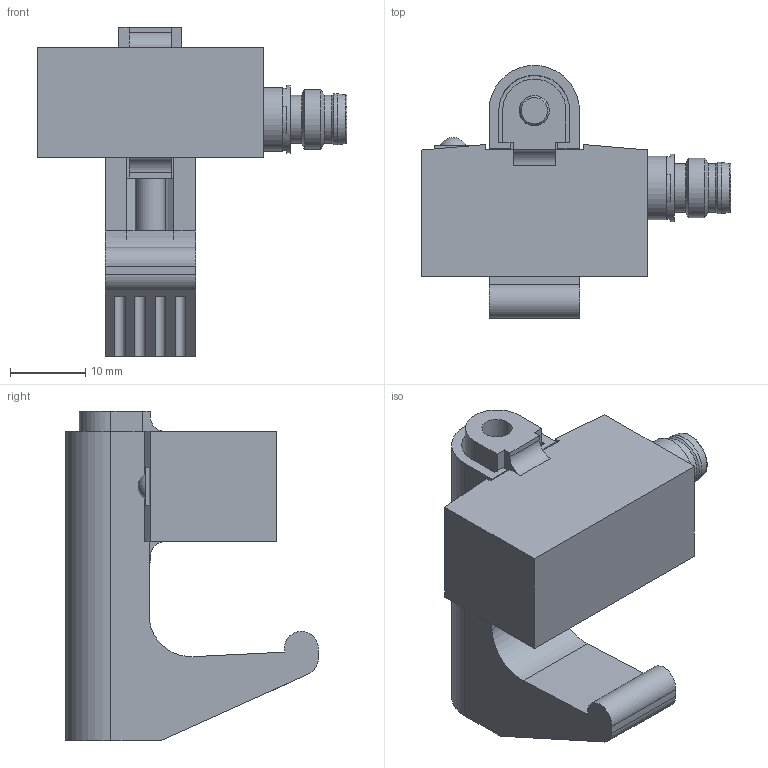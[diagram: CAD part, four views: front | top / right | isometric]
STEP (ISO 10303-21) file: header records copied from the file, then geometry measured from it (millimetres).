
FILE_DESCRIPTION((''),'2;1');
FILE_NAME('C:\TurckZip\BIM-IKE-X-V1.stp','2008-07-23T14:18:07',('IKOROL'),(''),'Autodesk Inventor 2008','Autodesk Inventor 2008','');
FILE_SCHEMA(('CONFIG_CONTROL_DESIGN'));
Length unit declared in the file: millimetre
Products named in the file (1): Part8
Bounding box: 41.05 x 33.5 x 43.7 mm (x, y, z)
Volume: 13243.6 mm3; surface area: 8151 mm2
Topology: 1 solids, 1 shells, 156 faces, 396 edges, 257 vertices
Faces by surface type: plane 104, cylinder 38, cone 8, sphere 4, torus 2
Full cylindrical faces by diameter (mm): 1.1 x3, 3.6 x1, 4 x4, 5.6 x1, 5.7 x1, 6.4 x2, 6.5 x1, 6.799 x1, 7 x1, 7.5 x1, 7.9 x1, 8.433 x1, 9 x1
Entity records: 4551 total; most frequent: CARTESIAN_POINT 776, DIRECTION 770, ORIENTED_EDGE 716, EDGE_CURVE 358, AXIS2_PLACEMENT_3D 261, VERTEX_POINT 249, VECTOR 248, LINE 248
